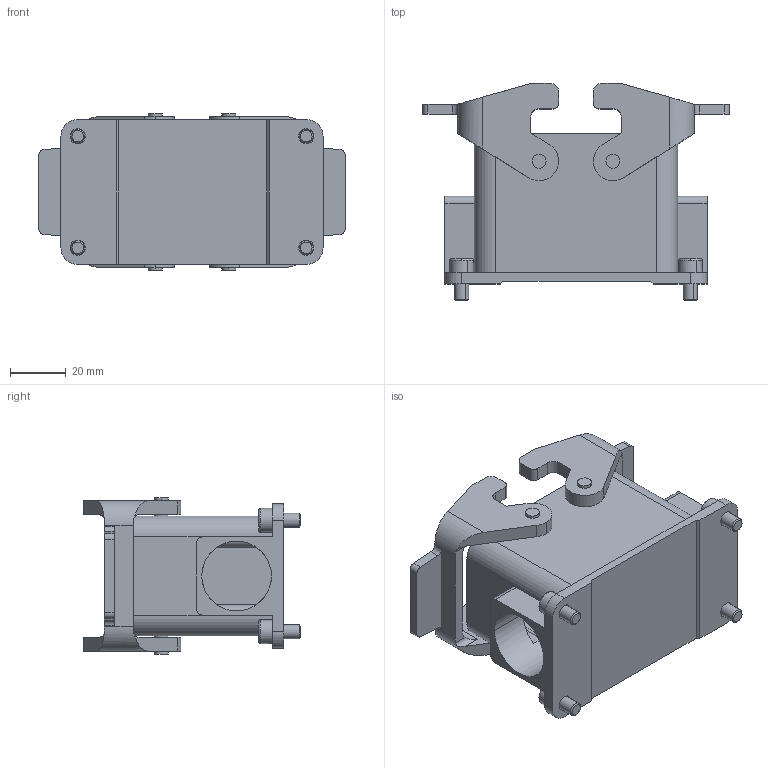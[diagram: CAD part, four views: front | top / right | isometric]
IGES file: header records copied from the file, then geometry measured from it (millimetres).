
Start section: 3D InterOp IGES (Version 25 0 2), Spatial Corp. Copyright (c) 1999-2007.
Global section: file name: E2711_54_10B.igs; native system: Spatial Corp.; preprocessor: 3D InterOp GENERIC/IGES 3.0; author: Noname; organization: Noname; date: 20160920.090218; units: metre
Bounding box: 109.9 x 78 x 56 mm (x, y, z)
Volume: 89567 mm3; surface area: 48742.8 mm2
Topology: 5 solids, 5 shells, 274 faces, 717 edges, 474 vertices
Faces by surface type: plane 143, cylinder 115, torus 8, cone 8
